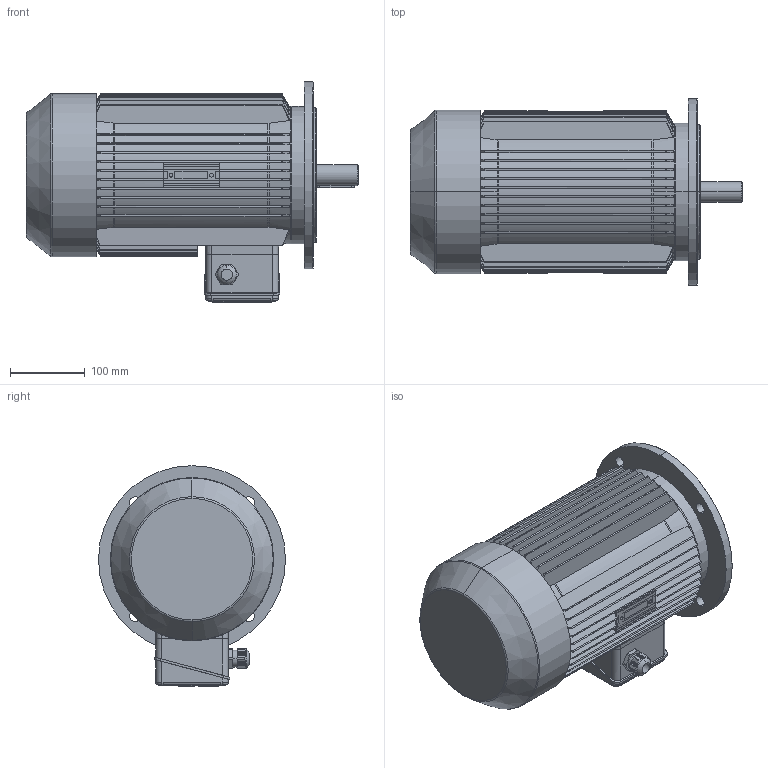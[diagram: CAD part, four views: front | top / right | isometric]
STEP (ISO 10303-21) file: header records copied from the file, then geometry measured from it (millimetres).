
FILE_DESCRIPTION (( 'STEP AP214' ), '1' );
FILE_NAME ('MAP112M6A IM3041 A250 FF215.STEP', '2021-03-05T14:36:58', ( '' ), ( '' ), 'SwSTEP 2.0', 'SolidWorks 2018', '' );
FILE_SCHEMA (( 'AUTOMOTIVE_DESIGN' ));
Length unit declared in the file: millimetre
Products named in the file (1): MAP112M6A IM3041 A250 FF215
Bounding box: 444 x 250 x 295 mm (x, y, z)
Volume: 11973351.6 mm3; surface area: 790058.9 mm2
Topology: 3 solids, 8 shells, 1063 faces, 2863 edges, 1846 vertices
Faces by surface type: plane 492, cylinder 225, cone 145, torus 108, bspline 75, sphere 18
Entity records: 39962 total; most frequent: CARTESIAN_POINT 14661, ORIENTED_EDGE 5698, DIRECTION 4682, EDGE_CURVE 2849, VERTEX_POINT 1842, AXIS2_PLACEMENT_3D 1645, LINE 1392, VECTOR 1392
